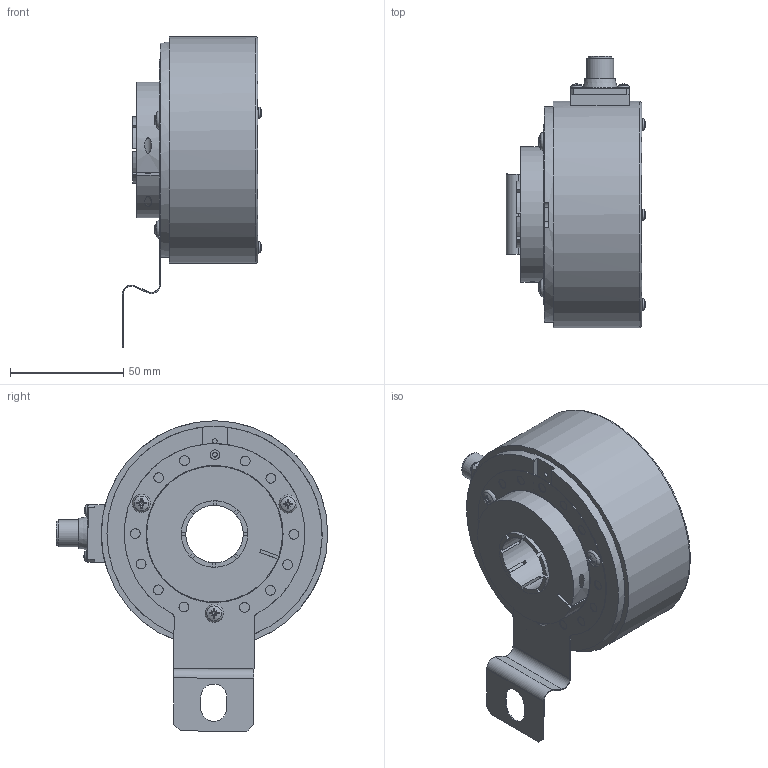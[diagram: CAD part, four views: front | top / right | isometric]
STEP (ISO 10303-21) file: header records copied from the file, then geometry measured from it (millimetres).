
FILE_DESCRIPTION((''),'2;1');
FILE_NAME('C:\TurckZip\T8-A02H-64xE.stp','2010-07-16T13:43:44',('IKOROL'),(''),'Autodesk Inventor 2009','Autodesk Inventor 2009','');
FILE_SCHEMA(('CONFIG_CONTROL_DESIGN'));
Length unit declared in the file: millimetre
Products named in the file (1): Part1
Bounding box: 61.54 x 119.9 x 137.07 mm (x, y, z)
Volume: 339169.3 mm3; surface area: 56218.5 mm2
Topology: 12 solids, 12 shells, 623 faces, 1595 edges, 1028 vertices
Faces by surface type: plane 252, cone 130, cylinder 128, torus 59, bspline 36, sphere 18
Full cylindrical faces by diameter (mm): 0.8 x16, 1.4 x8, 2.05 x2, 2.224 x7, 2.5 x7, 2.54 x10, 3.048 x2, 4.3 x13, 5.08 x1, 8 x1, 8.3 x1, 9 x1, 9.6 x1, 9.9 x1, 10.5 x1, 12.008 x1, 12.7 x1, 25.4 x1, 29.362 x1, 35.362 x1, 35.56 x1, 36.362 x1, 60.5 x1, 95 x1, 100 x1
Entity records: 20290 total; most frequent: CARTESIAN_POINT 6744, DIRECTION 2694, ORIENTED_EDGE 2648, EDGE_CURVE 1324, AXIS2_PLACEMENT_3D 1178, VERTEX_POINT 941, EDGE_LOOP 875, FACE_OUTER_BOUND 622
